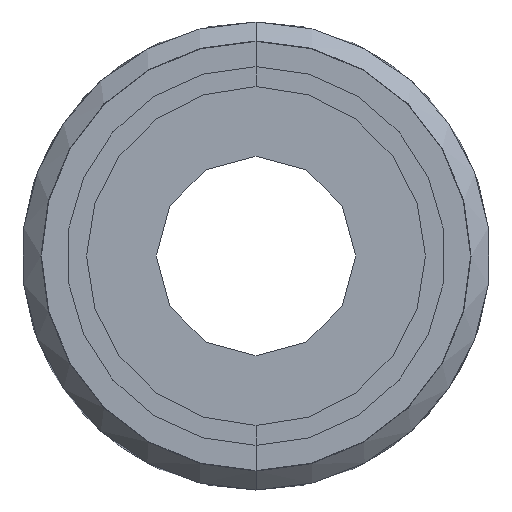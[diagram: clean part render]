
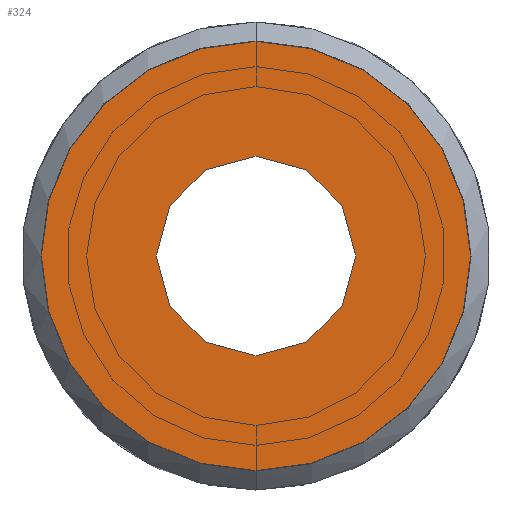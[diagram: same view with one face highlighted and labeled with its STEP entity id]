
A CAD part, front view. The second image highlights one B-rep face of the part: STEP entity #324.
In plain terms, the highlighted planar face has unit normal (0, -1, 0).
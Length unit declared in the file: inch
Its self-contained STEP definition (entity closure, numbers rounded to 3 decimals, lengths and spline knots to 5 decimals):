
#16 = CARTESIAN_POINT ( 'NONE',  ( 0., 0., 0. ) ) ;
#80 = CARTESIAN_POINT ( 'NONE',  ( 0., 0., 0.2265 ) ) ;
#129 = FACE_OUTER_BOUND ( 'NONE', #1221, .T. ) ;
#156 = CARTESIAN_POINT ( 'NONE',  ( 0.105, 0., 0. ) ) ;
#291 = DIRECTION ( 'NONE',  ( 0., 0., -1. ) ) ;
#294 = EDGE_CURVE ( 'NONE', #1686, #507, #1709, .T. ) ;
#324 = ADVANCED_FACE ( 'NONE', ( #129, #1783 ), #702, .T. ) ;
#423 = CIRCLE ( 'NONE', #1555, 0.2265 ) ;
#507 = VERTEX_POINT ( 'NONE', #2056 ) ;
#514 = VERTEX_POINT ( 'NONE', #1494 ) ;
#574 = DIRECTION ( 'NONE',  ( 0., 0., -1. ) ) ;
#664 = ORIENTED_EDGE ( 'NONE', *, *, #294, .T. ) ;
#702 = PLANE ( 'NONE',  #2292 ) ;
#740 = DIRECTION ( 'NONE',  ( 0., -1., 0. ) ) ;
#783 = VERTEX_POINT ( 'NONE', #2308 ) ;
#898 = DIRECTION ( 'NONE',  ( 0., -1., 0. ) ) ;
#915 = CIRCLE ( 'NONE', #2040, 0.105 ) ;
#1040 = EDGE_CURVE ( 'NONE', #783, #514, #1633, .T. ) ;
#1190 = CARTESIAN_POINT ( 'NONE',  ( 0., 0., 0. ) ) ;
#1210 = EDGE_CURVE ( 'NONE', #507, #1686, #423, .T. ) ;
#1221 = EDGE_LOOP ( 'NONE', ( #664, #1964 ) ) ;
#1255 = EDGE_LOOP ( 'NONE', ( #1456, #1786 ) ) ;
#1266 = DIRECTION ( 'NONE',  ( 0., 0., -1. ) ) ;
#1342 = EDGE_CURVE ( 'NONE', #514, #783, #915, .T. ) ;
#1364 = CARTESIAN_POINT ( 'NONE',  ( 0., 0., 0. ) ) ;
#1456 = ORIENTED_EDGE ( 'NONE', *, *, #1342, .F. ) ;
#1469 = DIRECTION ( 'NONE',  ( 0., 0., -1. ) ) ;
#1494 = CARTESIAN_POINT ( 'NONE',  ( 0., 0., -0.105 ) ) ;
#1528 = DIRECTION ( 'NONE',  ( 0., -1., 0. ) ) ;
#1551 = DIRECTION ( 'NONE',  ( 0., 0., -1. ) ) ;
#1555 = AXIS2_PLACEMENT_3D ( 'NONE', #16, #740, #1469 ) ;
#1633 = CIRCLE ( 'NONE', #1818, 0.105 ) ;
#1686 = VERTEX_POINT ( 'NONE', #80 ) ;
#1709 = CIRCLE ( 'NONE', #2003, 0.2265 ) ;
#1732 = DIRECTION ( 'NONE',  ( 0., -1., 0. ) ) ;
#1783 = FACE_BOUND ( 'NONE', #1255, .T. ) ;
#1786 = ORIENTED_EDGE ( 'NONE', *, *, #1040, .F. ) ;
#1818 = AXIS2_PLACEMENT_3D ( 'NONE', #1842, #2184, #574 ) ;
#1842 = CARTESIAN_POINT ( 'NONE',  ( 0., 0., 0. ) ) ;
#1964 = ORIENTED_EDGE ( 'NONE', *, *, #1210, .T. ) ;
#2003 = AXIS2_PLACEMENT_3D ( 'NONE', #1190, #1528, #1551 ) ;
#2040 = AXIS2_PLACEMENT_3D ( 'NONE', #1364, #1732, #291 ) ;
#2056 = CARTESIAN_POINT ( 'NONE',  ( 0., 0., -0.2265 ) ) ;
#2184 = DIRECTION ( 'NONE',  ( 0., -1., 0. ) ) ;
#2292 = AXIS2_PLACEMENT_3D ( 'NONE', #156, #898, #1266 ) ;
#2308 = CARTESIAN_POINT ( 'NONE',  ( 0., 0., 0.105 ) ) ;
